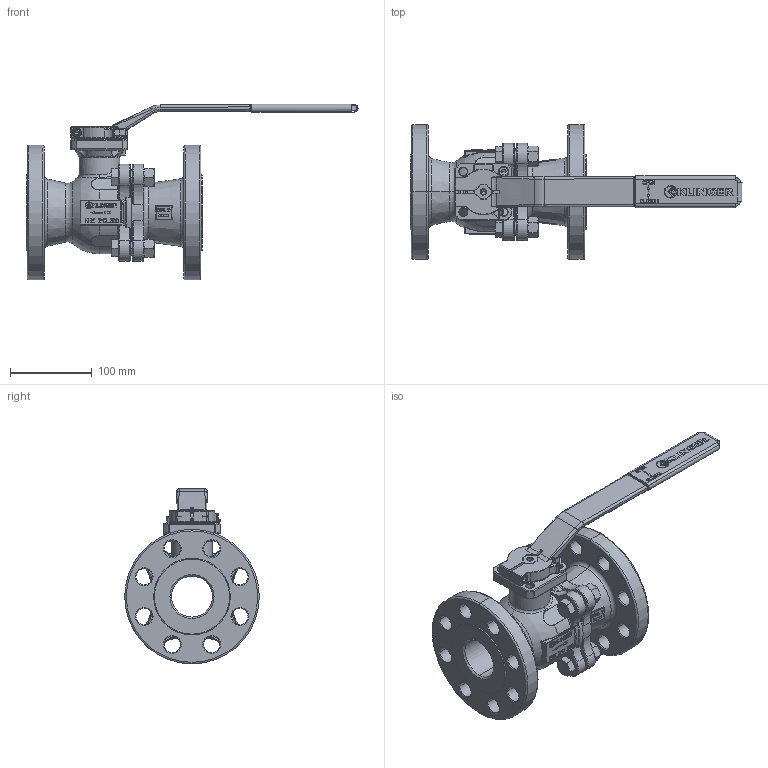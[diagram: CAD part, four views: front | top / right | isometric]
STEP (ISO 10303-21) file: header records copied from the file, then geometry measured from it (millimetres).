
FILE_DESCRIPTION((''),'2;1');
FILE_NAME('KHECL-2-C300_XC','2016-08-29T',('santag'),('RAND'),'PRO/ENGINEER BY PARAMETRIC TECHNOLOGY CORPORATION, 2016100','PRO/ENGINEER BY PARAMETRIC TECHNOLOGY CORPORATION, 2016100','');
FILE_SCHEMA(('CONFIG_CONTROL_DESIGN'));
Products named in the file (1): KHECL-2-C300_XC
Bounding box: 407 x 165 x 215.55 mm (x, y, z)
Volume: 1761780.3 mm3; surface area: 352334 mm2
Topology: 1 solids, 3 shells, 3463 faces, 9021 edges, 5683 vertices
Faces by surface type: plane 2042, cylinder 517, torus 367, bspline 299, cone 201, sphere 37
Entity records: 135169 total; most frequent: CARTESIAN_POINT 51621, ORIENTED_EDGE 18008, DIRECTION 16542, EDGE_CURVE 9004, VECTOR 5974, LINE 5974, VERTEX_POINT 5683, AXIS2_PLACEMENT_3D 5284
